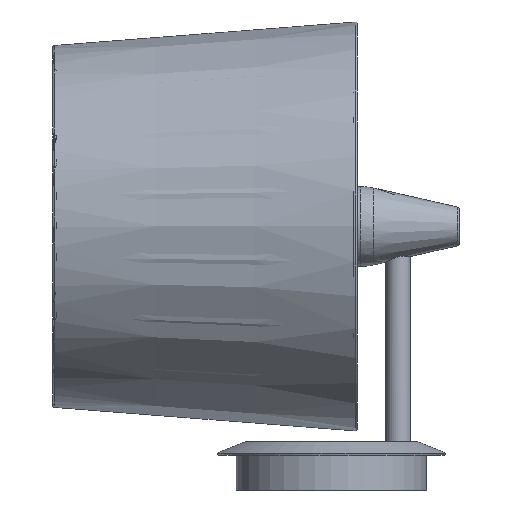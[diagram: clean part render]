
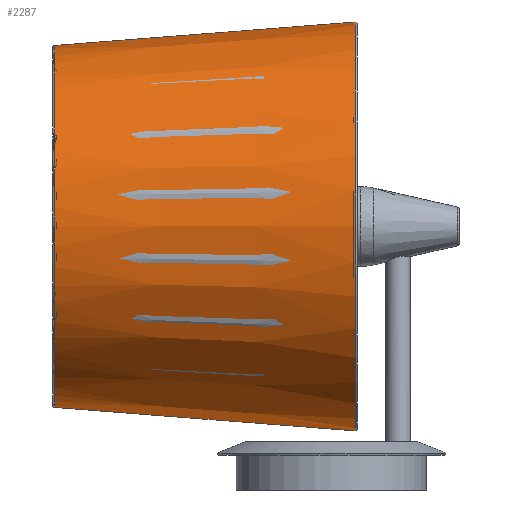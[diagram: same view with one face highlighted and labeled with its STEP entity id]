
A CAD part, left-side view. The second image highlights one B-rep face of the part: STEP entity #2287.
In plain terms, the highlighted conical face has half-angle 4.466 degrees and reference radius 106.184 mm.
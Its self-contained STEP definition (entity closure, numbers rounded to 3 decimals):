
#59=B_SPLINE_CURVE_WITH_KNOTS('',3,(#4626,#4627,#4628,#4629,#4630,#4631,
#4632,#4633,#4634,#4635,#4636,#4637),.UNSPECIFIED.,.F.,.F.,(4,1,1,1,1,1,
1,1,1,4),(0.,0.111,0.222,0.333,0.444,
0.556,0.667,0.778,0.889,
1.),.UNSPECIFIED.);
#97=CONICAL_SURFACE('',#2560,106.184,0.078);
#309=FACE_OUTER_BOUND('',#471,.T.);
#471=EDGE_LOOP('',(#1957,#1958,#1959,#1960));
#611=CIRCLE('',#2555,107.419);
#773=LINE('',#4845,#935);
#774=LINE('',#4846,#936);
#935=VECTOR('',#3206,304.8);
#936=VECTOR('',#3207,304.8);
#1097=VERTEX_POINT('',#4021);
#1098=VERTEX_POINT('',#4224);
#1099=VERTEX_POINT('',#4431);
#1100=VERTEX_POINT('',#4625);
#1383=EDGE_CURVE('',#1097,#1098,#611,.T.);
#1386=EDGE_CURVE('',#1100,#1099,#59,.T.);
#1389=EDGE_CURVE('',#1097,#1099,#773,.T.);
#1390=EDGE_CURVE('',#1100,#1098,#774,.T.);
#1957=ORIENTED_EDGE('',*,*,#1389,.F.);
#1958=ORIENTED_EDGE('',*,*,#1383,.T.);
#1959=ORIENTED_EDGE('',*,*,#1390,.F.);
#1960=ORIENTED_EDGE('',*,*,#1386,.T.);
#2287=ADVANCED_FACE('',(#309),#97,.T.);
#2555=AXIS2_PLACEMENT_3D('',#4427,#3194,#3195);
#2560=AXIS2_PLACEMENT_3D('',#4844,#3204,#3205);
#3194=DIRECTION('center_axis',(0.,0.,
1.));
#3195=DIRECTION('ref_axis',(-0.588,-0.809,0.));
#3204=DIRECTION('center_axis',(0.,0.,
-1.));
#3205=DIRECTION('ref_axis',(1.,0.,0.));
#3206=DIRECTION('',(0.,0.078,0.997));
#3207=DIRECTION('',(0.,0.078,-0.997));
#4021=CARTESIAN_POINT('',(0.,-107.419,1.5));
#4224=CARTESIAN_POINT('',(0.,107.419,1.5));
#4427=CARTESIAN_POINT('Origin',(0.,0.,
1.5));
#4431=CARTESIAN_POINT('',(0.,-95.072,159.583));
#4625=CARTESIAN_POINT('',(0.,95.072,159.583));
#4626=CARTESIAN_POINT('Ctrl Pts',(0.,95.072,
159.583));
#4627=CARTESIAN_POINT('Ctrl Pts',(11.09,95.151,159.583));
#4628=CARTESIAN_POINT('Ctrl Pts',(33.17,91.134,159.583));
#4629=CARTESIAN_POINT('Ctrl Pts',(62.368,74.333,159.583));
#4630=CARTESIAN_POINT('Ctrl Pts',(84.023,48.508,159.583));
#4631=CARTESIAN_POINT('Ctrl Pts',(95.548,16.849,159.583));
#4632=CARTESIAN_POINT('Ctrl Pts',(95.548,-16.849,159.583));
#4633=CARTESIAN_POINT('Ctrl Pts',(84.023,-48.508,159.583));
#4634=CARTESIAN_POINT('Ctrl Pts',(62.368,-74.333,159.583));
#4635=CARTESIAN_POINT('Ctrl Pts',(33.17,-91.134,159.583));
#4636=CARTESIAN_POINT('Ctrl Pts',(11.09,-95.151,159.583));
#4637=CARTESIAN_POINT('Ctrl Pts',(0.,-95.072,
159.583));
#4844=CARTESIAN_POINT('Origin',(0.,0.,
17.309));
#4845=CARTESIAN_POINT('',(0.,-107.419,1.5));
#4846=CARTESIAN_POINT('',(0.,95.072,159.583));
